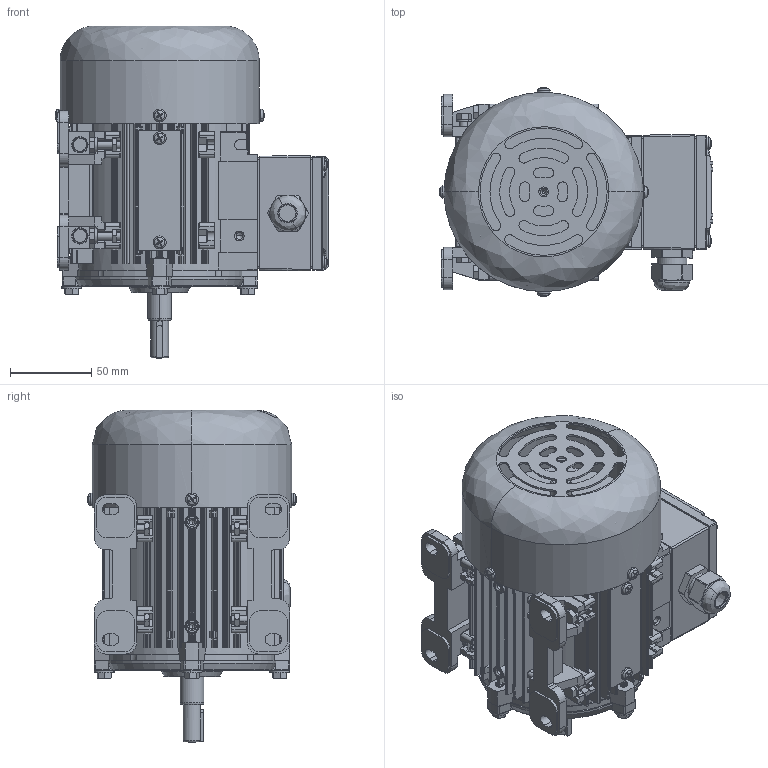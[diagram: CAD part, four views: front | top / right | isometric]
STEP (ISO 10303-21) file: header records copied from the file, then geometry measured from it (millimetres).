
FILE_DESCRIPTION (( 'STEP AP214' ), '1' );
FILE_NAME ('ACI-PMAB020-4R4LABT.STEP', '2011-06-20T16:16:55', ( '' ), ( '' ), 'SwSTEP 2.0', 'SolidWorks 2011', '' );
FILE_SCHEMA (( 'AUTOMOTIVE_DESIGN' ));
Length unit declared in the file: millimetre
Products named in the file (22): 63M 200W SHAFT 20090416; 63M 200W FRONT COVER L_T 20090417; 63M 200W FAN COVER 20090417; 63M 200W REAR COVER L_T 20090417; 63M 200W FRAME L_T 20090417; ACI-PMAB020-4R4LABT; LEAD BOX A 20080717; Key; NAME PLATE PMAB020-4R4LA; 63M 200W BASE BRACKET 20090417_MIR1; JIS B 1180 C _X2_C804CCB4_X0_ _X2_C2A4B808B4DC_X0_ - _X2_BBF8D130_X0_ C M5 x 16; JIS B 1181 A_B - _X2_BBF8D130_X0_ A_B M5; JIS B 1251 _X2_BC88D638_X0_ 2 5; 63M 200W BASE BRACKET 20090417; BED; CAP; JIS B 1111 Z - _X2_BBF8D130_X0_ A M4 x 14 - Z; JIS B 1180 C _X2_C804CCB4_X0_ _X2_C2A4B808B4DC_X0_ - _X2_BBF8D130_X0_ C M5 x 20; JIS B 1251 _X2_BC88D638_X0_ 2 6; KS B 1023 - A  M 4 x 6 - H(1); RUBBER GASKET A 20080702; LEAD BOX B 20080702
Assembly tree (65 placements, depth 2):
  ACI-PMAB020-4R4LABT
    JIS B 1180 C _X2_C804CCB4_X0_ _X2_C2A4B808B4DC_X0_ - _X2_BBF8D130_X0_ C M5 x 20  x8
    JIS B 1180 C _X2_C804CCB4_X0_ _X2_C2A4B808B4DC_X0_ - _X2_BBF8D130_X0_ C M5 x 16  x8
    JIS B 1251 _X2_BC88D638_X0_ 2 6  x8
    JIS B 1251 _X2_BC88D638_X0_ 2 5  x8
    KS B 1023 - A  M 4 x 6 - H(1)  x6
    Key
    JIS B 1111 Z - _X2_BBF8D130_X0_ A M4 x 14 - Z  x4
    BED
    LEAD BOX B 20080702
    JIS B 1181 A_B - _X2_BBF8D130_X0_ A_B M5  x8
    63M 200W BASE BRACKET 20090417
    63M 200W FRONT COVER L_T 20090417
    63M 200W FRAME L_T 20090417
    63M 200W FAN COVER 20090417
    NAME PLATE PMAB020-4R4LA
    LEAD BOX A 20080717
    63M 200W REAR COVER L_T 20090417
    63M 200W SHAFT 20090416
    RUBBER GASKET A 20080702  x2
    63M 200W BASE BRACKET 20090417_MIR1
    CAP
Bounding box: 168.26 x 128.53 x 204 mm (x, y, z)
Volume: 294233.6 mm3; surface area: 328741 mm2
Topology: 64 solids, 65 shells, 4115 faces, 10914 edges, 6904 vertices
Faces by surface type: plane 1581, cylinder 1473, cone 675, bspline 374, torus 12
Entity records: 123119 total; most frequent: CARTESIAN_POINT 36035, ORIENTED_EDGE 16378, DIRECTION 15445, EDGE_CURVE 8217, AXIS2_PLACEMENT_3D 5690, VERTEX_POINT 5281, LINE 4065, VECTOR 4065
